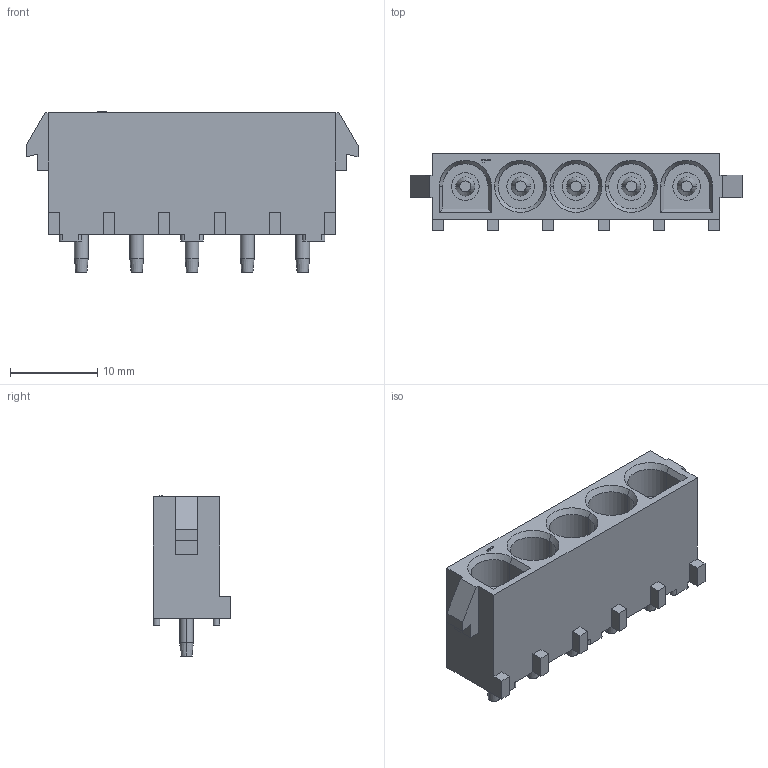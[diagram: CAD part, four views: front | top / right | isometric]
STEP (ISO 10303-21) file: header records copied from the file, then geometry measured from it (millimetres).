
FILE_DESCRIPTION((''),'2;1');
FILE_NAME('C-640900-1','2020-06-02T10:26:00',('workeradm'),('TE Connectivity Ltd.'),'CREO PARAMETRIC BY PTC INC, 2019292','CREO PARAMETRIC BY PTC INC, 2019292','');
FILE_SCHEMA(('AUTOMOTIVE_DESIGN { 1 0 10303 214 1 1 1 1 }'));
Length unit declared in the file: millimetre
Products named in the file (1): C-640900-1
Bounding box: 38.1 x 8.89 x 18.38 mm (x, y, z)
Volume: 2398.5 mm3; surface area: 3335.9 mm2
Topology: 1 solids, 1 shells, 172 faces, 425 edges, 288 vertices
Faces by surface type: plane 94, cylinder 50, cone 28
Entity records: 5143 total; most frequent: DIRECTION 907, CARTESIAN_POINT 868, ORIENTED_EDGE 826, EDGE_CURVE 413, AXIS2_PLACEMENT_3D 305, VECTOR 297, LINE 297, VERTEX_POINT 264
